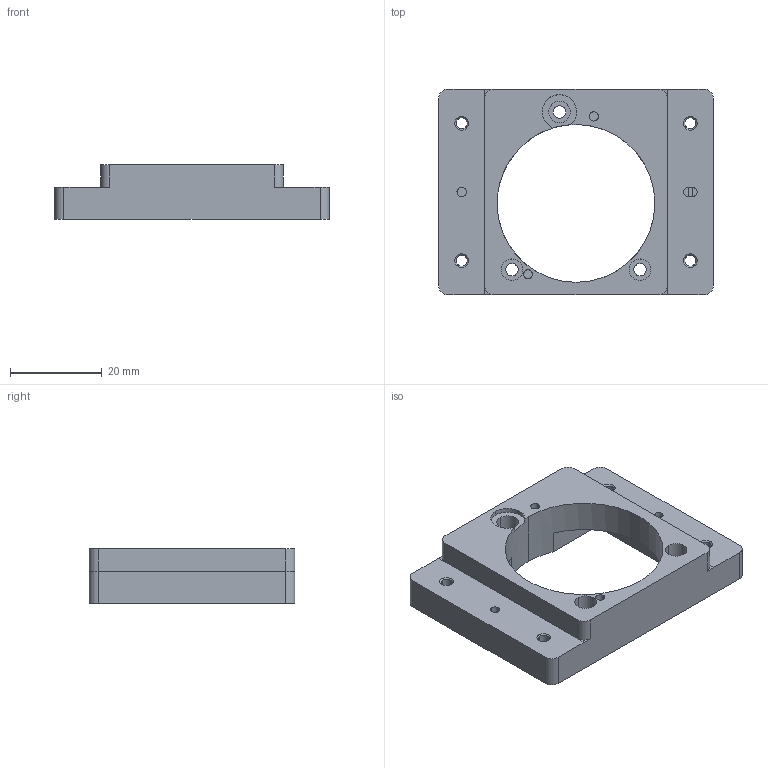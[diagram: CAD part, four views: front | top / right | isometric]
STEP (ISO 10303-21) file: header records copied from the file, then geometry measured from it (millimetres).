
FILE_DESCRIPTION(/* description */ ('VariCAD 2010-3.03 AP-214'),/* implementation_level */ '2;1');
FILE_NAME(/* name */ '0353-19-58',/* time_stamp */ '2011-08-09T16:57:49-06:00',/* author */ (''),/* organization */ (''),/* preprocessor_version */ 'ST-DEVELOPER v12',/* originating_system */ 'VariCAD 2010-3.03; kernel version (20100102)',/* authorisation */ '');
FILE_SCHEMA (('AUTOMOTIVE_DESIGN'));
Length unit declared in the file: millimetre
Products named in the file (1): Part
Bounding box: 60 x 45 x 12 mm (x, y, z)
Volume: 14534 mm3; surface area: 8492.6 mm2
Topology: 5 solids, 5 shells, 115 faces, 273 edges, 174 vertices
Faces by surface type: cylinder 66, plane 41, cone 8
Entity records: 4278 total; most frequent: DIRECTION 653, CARTESIAN_POINT 568, ORIENTED_EDGE 546, EDGE_CURVE 273, AXIS2_PLACEMENT_3D 259, VERTEX_POINT 174, EDGE_LOOP 145, CIRCLE 138
